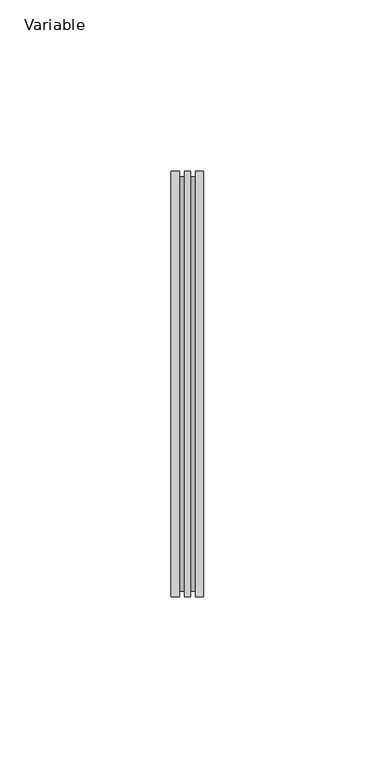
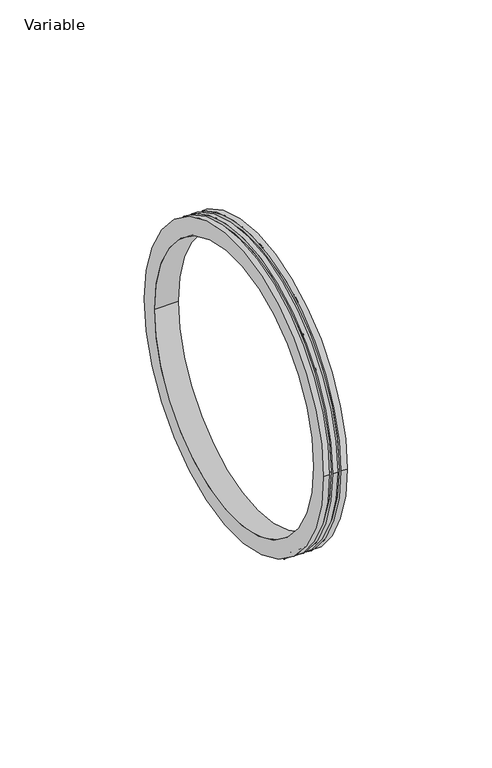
"""IFC4 building model written with IfcOpenShell, lengths in millimetres: pipe fitting geometry, AliaxisFR_Friaphon_EPDMGasket_FR : Variable."""

import ifcopenshell
import ifcopenshell.guid

model = None  # the IFC model being written
_history = None  # IfcOwnerHistory: only IFC2X3 demands one
_inside = {}  # id of a spatial element -> (the spatial element, [elements in it])
_under = {}  # id of a project, library or spatial element -> (it, [spatial elements below it])
_declared = {}  # id of a project -> (the project, [libraries it declares])
_typed = {}  # id of a type object -> (the type object, [elements of that type])
_made_of = {}  # id of a material, layer set ... -> (it, [elements and type objects made of it])


def new_model(schema):
    """Start an empty IFC model of exactly this schema.

    Asked for "IFC4X3", IfcOpenShell would pick the latest addendum, in which some entities
    have other attributes; the version numbers below select the first issue.
    IFC2X3 requires an IfcOwnerHistory on every rooted entity: one is made here for all.
    """
    global model, _history
    if schema == "IFC4X3":
        model = ifcopenshell.file(schema_version=(4, 3, 0, 0))
    else:
        model = ifcopenshell.file(schema=schema)
    _inside.clear()
    _under.clear()
    _declared.clear()
    _typed.clear()
    _made_of.clear()
    _history = None
    if model.schema == "IFC2X3":
        org = make("IfcOrganization", Name="unknown")
        user = make(
            "IfcPersonAndOrganization",
            ThePerson=make("IfcPerson", FamilyName="unknown"),
            TheOrganization=org,
        )
        app = make(
            "IfcApplication",
            ApplicationDeveloper=org,
            Version="unknown",
            ApplicationFullName="unknown",
            ApplicationIdentifier="unknown",
        )
        _history = make(
            "IfcOwnerHistory",
            OwningUser=user,
            OwningApplication=app,
            ChangeAction="ADDED",
            CreationDate=0,
        )
    return model


def make(cls, **values):
    """One entity of the class cls with the attributes given. An attribute that is None is left unset."""
    return model.create_entity(
        cls, **{name: value for name, value in values.items() if value is not None}
    )


def rooted(cls, **values):
    """An entity with a GlobalId (a new one), such as an element, a storey or a relation."""
    return make(cls, GlobalId=ifcopenshell.guid.new(), OwnerHistory=_history, **values)


def si_unit(unit_type, name, prefix=None):
    """IfcSIUnit, for example si_unit("LENGTHUNIT", "METRE", prefix="MILLI")."""
    return make("IfcSIUnit", UnitType=unit_type, Prefix=prefix, Name=name)


def assignment(units):
    """IfcUnitAssignment: the units of a project."""
    return None if units is None else make("IfcUnitAssignment", Units=units)


def point(xyz):
    """IfcCartesianPoint."""
    return None if xyz is None else make("IfcCartesianPoint", Coordinates=xyz)


def direction(xyz):
    """IfcDirection."""
    return None if xyz is None else make("IfcDirection", DirectionRatios=xyz)


def frame(location, z_axis=None, x_axis=None):
    """IfcAxis2Placement3D, a coordinate frame: its origin and axes. An axis left out is left unset."""
    return make(
        "IfcAxis2Placement3D",
        Location=point(location),
        Axis=direction(z_axis),
        RefDirection=direction(x_axis),
    )


def origin():
    """The frame at (0, 0, 0) with its axes left unset."""
    return frame((0.0, 0.0, 0.0))


def place(relative_to, where):
    """IfcLocalPlacement: puts the frame where relative to a parent placement (None: the world)."""
    return make(
        "IfcLocalPlacement", PlacementRelTo=relative_to, RelativePlacement=where
    )


def context(
    kind, dimensions, precision=None, world=None, true_north=None, identifier=None
):
    """IfcGeometricRepresentationContext, for example the 3D "Model" context."""
    return make(
        "IfcGeometricRepresentationContext",
        ContextIdentifier=identifier,
        ContextType=kind,
        CoordinateSpaceDimension=dimensions,
        Precision=precision,
        WorldCoordinateSystem=world,
        TrueNorth=true_north,
    )


def project(units=None, contexts=None):
    """IfcProject with its units and contexts."""
    return rooted(
        "IfcProject",
        Name="project",
        RepresentationContexts=contexts,
        UnitsInContext=assignment(units),
    )


def spatial(cls, under=None, at=None, **own):
    """A site, building, storey or space (cls), placed at a placement, below another one or the project."""
    s = rooted(cls, ObjectPlacement=at, **own)
    if under is not None:
        _under.setdefault(under.id(), (under, []))[1].append(s)
    return s


def polyline(points):
    """IfcPolyline through the points."""
    return make("IfcPolyline", Points=[point(p) for p in points])


def circle_curve(where, radius):
    """IfcCircle in the frame where."""
    return make("IfcCircle", Position=where, Radius=radius)


def shape(context_of_items, identifier, shape_type, items):
    """IfcShapeRepresentation: the items that make up one representation, for example the "Body"."""
    return make(
        "IfcShapeRepresentation",
        ContextOfItems=context_of_items,
        RepresentationIdentifier=identifier,
        RepresentationType=shape_type,
        Items=items,
    )


def source(mapping_origin, context_of_items, identifier, shape_type, items):
    """IfcRepresentationMap: a shape defined once, which mapped items show again and again."""
    return make(
        "IfcRepresentationMap",
        MappingOrigin=mapping_origin,
        MappedRepresentation=shape(context_of_items, identifier, shape_type, items),
    )


def transform(
    local_origin,
    x_axis=None,
    y_axis=None,
    z_axis=None,
    scale=None,
    scale2=None,
    scale3=None,
    uniform=True,
):
    """IfcCartesianTransformationOperator3D, or its non-uniform kind. x_axis, y_axis, z_axis: its Axis1, 2, 3."""
    if uniform:
        return make(
            "IfcCartesianTransformationOperator3D",
            Axis1=direction(x_axis),
            Axis2=direction(y_axis),
            LocalOrigin=point(local_origin),
            Scale=scale,
            Axis3=direction(z_axis),
        )
    return make(
        "IfcCartesianTransformationOperator3DnonUniform",
        Axis1=direction(x_axis),
        Axis2=direction(y_axis),
        LocalOrigin=point(local_origin),
        Scale=scale,
        Axis3=direction(z_axis),
        Scale2=scale2,
        Scale3=scale3,
    )


def mapped(mapping_source, mapping_target):
    """IfcMappedItem: shows the shape of a source again, moved by a transform."""
    return make(
        "IfcMappedItem", MappingSource=mapping_source, MappingTarget=mapping_target
    )


def made_of(thing, what):
    """Note that an element or type object is made of a material, layer set ...; save() writes the relation."""
    if what is not None:
        _made_of.setdefault(what.id(), (what, []))[1].append(thing)
    return thing


def element(
    cls,
    number,
    at=None,
    inside=None,
    cuts=None,
    type_object=None,
    material=None,
    context=None,
    identifier="Body",
    shape_type=None,
    held_by="IfcProductDefinitionShape",
    body=None,
    shapes=None,
    **own,
):
    """One element of the class cls, such as IfcWall. Its Tag is "e" and its number.

    at: its placement. inside: the storey or other place that contains it. cuts: it is an
    opening in that element (IfcRelVoidsElement). A single representation is given by context,
    identifier, shape_type and body (its items); several are given by shapes. held_by: the class
    of the entity that holds the representations. save() writes the other relations.
    """
    e = rooted(cls, Tag="e%d" % number, ObjectPlacement=at, **own)
    if body is not None:
        shapes = [shape(context, identifier, shape_type, body)]
    if shapes is not None:
        e.Representation = make(held_by, Representations=shapes)
    if inside is not None:
        _inside.setdefault(inside.id(), (inside, []))[1].append(e)
    if cuts is not None:
        rooted(
            "IfcRelVoidsElement", RelatingBuildingElement=cuts, RelatedOpeningElement=e
        )
    if type_object is not None:
        _typed.setdefault(type_object.id(), (type_object, []))[1].append(e)
    return made_of(e, material)


def aggregate(whole, parts):
    """IfcRelAggregates: a whole, such as a stair, and the parts it consists of."""
    return rooted("IfcRelAggregates", RelatingObject=whole, RelatedObjects=parts)


def save(model, path):
    """Write the relations noted so far, then the file.

    IfcRelAggregates (storeys below a building ...), IfcRelContainedInSpatialStructure (elements
    in a storey), IfcRelDefinesByType, IfcRelAssociatesMaterial and IfcRelDeclares: one each for
    every whole, place, type object, material and project.
    """
    for whole, parts in _under.values():
        aggregate(whole, parts)
    for where, things in _inside.values():
        rooted(
            "IfcRelContainedInSpatialStructure",
            RelatedElements=things,
            RelatingStructure=where,
        )
    for kind, things in _typed.values():
        rooted("IfcRelDefinesByType", RelatedObjects=things, RelatingType=kind)
    for what, things in _made_of.values():
        rooted("IfcRelAssociatesMaterial", RelatedObjects=things, RelatingMaterial=what)
    for by, libraries in _declared.values():
        rooted("IfcRelDeclares", RelatingContext=by, RelatedDefinitions=libraries)
    model.write(path)


def plane_surface(at):
    """IfcPlane: the flat surface through the origin of the frame at, square to its z axis."""
    return make("IfcPlane", Position=at)


def cylinder_surface(at, radius):
    """IfcCylindricalSurface: all points at the distance radius from the z axis of the frame at."""
    return make("IfcCylindricalSurface", Position=at, Radius=radius)


def revolved_surface(curve, axis_point, axis_direction):
    """IfcSurfaceOfRevolution: the curve turned about the line through axis_point along axis_direction."""
    return make(
        "IfcSurfaceOfRevolution",
        SweptCurve=make("IfcArbitraryOpenProfileDef", ProfileType="CURVE", Curve=curve),
        AxisPosition=make("IfcAxis1Placement", Location=point(axis_point), Axis=direction(axis_direction)),
    )


def advanced_brep(points, edges, surfaces, faces):
    """IfcAdvancedBrep: a solid bounded by faces that lie on surfaces and meet in shared edges.

    An edge is (start, end): straight between two places in points (the first is 0);
    or (start, end, curve); or (start, end, curve, False) where it runs against its curve.
    A face is (place in surfaces, loops), or (place, loops, False) where it looks against
    its surface's normal. A loop lists edges by number (the first is 1), with a minus sign
    where the edge is run from its end to its start. The first loop is the outer one.
    """
    corners = [point(p) for p in points]
    vertices = [make("IfcVertexPoint", VertexGeometry=c) for c in corners]
    made = []
    for start, end, *more in edges:
        made.append(
            make(
                "IfcEdgeCurve",
                EdgeStart=vertices[start],
                EdgeEnd=vertices[end],
                EdgeGeometry=more[0] if more else make("IfcPolyline", Points=[corners[start], corners[end]]),
                SameSense=more[1] if len(more) > 1 else True,
            )
        )
    hull = []
    for where, loops, *sense in faces:
        bounds = []
        for j, loop in enumerate(loops):
            ring = [make("IfcOrientedEdge", EdgeElement=made[abs(k) - 1], Orientation=k > 0) for k in loop]
            bounds.append(
                make(
                    "IfcFaceOuterBound" if j == 0 else "IfcFaceBound",
                    Bound=make("IfcEdgeLoop", EdgeList=ring),
                    Orientation=True,
                )
            )
        hull.append(make("IfcAdvancedFace", Bounds=bounds, FaceSurface=surfaces[where], SameSense=sense[0] if sense else True))
    return make("IfcAdvancedBrep", Outer=make("IfcClosedShell", CfsFaces=hull))


def variable_ceea4be9(model_context):
    return source(origin(), model_context, "Body", "AdvancedBrep", [
        advanced_brep(
        [(4.75, -62.0, 0.0), (4.75, 62.0, 0.0), (4.75, -55.0, 0.0), (4.75, 55.0, 0.0), (-4.75, -62.0, 0.0), (-4.75, 62.0, 0.0), (-4.75, -55.0, 0.0), (-4.75, 55.0, 0.0), (2.3663702, -62.0, 0.0), (2.3663702, 62.0, 0.0), (-2.3663702, 62.0, 0.0), (-2.3663702, -62.0, 0.0), (-0.8836298, -62.0, 0.0), (-0.8836298, 62.0, 0.0), (0.8836298, 62.0, 0.0), (0.8836298, -62.0, 0.0), (-0.8836298, -60.5, 0.0), (-0.8836298, 60.5, 0.0), (-2.3663702, -60.5, 0.0), (-2.3663702, 60.5, 0.0), (2.3663702, -60.5, 0.0), (2.3663702, 60.5, 0.0), (0.8836298, -60.5, 0.0), (0.8836298, 60.5, 0.0)],
        [
            (0, 1, circle_curve(frame((4.75, 0.0, 0.0), z_axis=(1.0, 0.0, 0.0), x_axis=(0.0, 1.0, 0.0)), 62.0)),
            (1, 0, circle_curve(frame((4.75, 0.0, 0.0), z_axis=(1.0, 0.0, 0.0), x_axis=(0.0, 1.0, 0.0)), 62.0)),
            (2, 3, circle_curve(frame((4.75, 0.0, 0.0), z_axis=(-1.0, 0.0, 0.0), x_axis=(0.0, 1.0, 0.0)), 55.0)),
            (3, 2, circle_curve(frame((4.75, 0.0, 0.0), z_axis=(-1.0, 0.0, 0.0), x_axis=(0.0, 1.0, 0.0)), 55.0)),
            (4, 5, circle_curve(frame((-4.75, 0.0, 0.0), z_axis=(-1.0, 0.0, 0.0), x_axis=(0.0, 1.0, 0.0)), 62.0)),
            (5, 4, circle_curve(frame((-4.75, 0.0, 0.0), z_axis=(-1.0, 0.0, 0.0), x_axis=(0.0, 1.0, 0.0)), 62.0)),
            (6, 7, circle_curve(frame((-4.75, 0.0, 0.0), z_axis=(1.0, 0.0, 0.0), x_axis=(0.0, 1.0, 0.0)), 55.0)),
            (7, 6, circle_curve(frame((-4.75, 0.0, 0.0), z_axis=(1.0, 0.0, 0.0), x_axis=(0.0, 1.0, 0.0)), 55.0)),
            (0, 8),
            (8, 9, circle_curve(frame((2.3663702, 0.0, 0.0), z_axis=(1.0, 0.0, 0.0), x_axis=(0.0, 1.0, 0.0)), 62.0)),
            (9, 1),
            (5, 10),
            (10, 11, circle_curve(frame((-2.3663702, 0.0, 0.0), z_axis=(-1.0, 0.0, 0.0), x_axis=(0.0, 1.0, 0.0)), 62.0)),
            (11, 4),
            (12, 13, circle_curve(frame((-0.8836298, 0.0, 0.0), z_axis=(1.0, 0.0, 0.0), x_axis=(0.0, 1.0, 0.0)), 62.0)),
            (13, 14),
            (14, 15, circle_curve(frame((0.8836298, 0.0, 0.0), z_axis=(-1.0, 0.0, 0.0), x_axis=(0.0, 1.0, 0.0)), 62.0)),
            (15, 12),
            (9, 8, circle_curve(frame((2.3663702, 0.0, 0.0), z_axis=(1.0, 0.0, 0.0), x_axis=(0.0, 1.0, 0.0)), 62.0)),
            (11, 10, circle_curve(frame((-2.3663702, 0.0, 0.0), z_axis=(-1.0, 0.0, 0.0), x_axis=(0.0, 1.0, 0.0)), 62.0)),
            (13, 12, circle_curve(frame((-0.8836298, 0.0, 0.0), z_axis=(1.0, 0.0, 0.0), x_axis=(0.0, 1.0, 0.0)), 62.0)),
            (15, 14, circle_curve(frame((0.8836298, 0.0, 0.0), z_axis=(-1.0, 0.0, 0.0), x_axis=(0.0, 1.0, 0.0)), 62.0)),
            (2, 6),
            (7, 3),
            (16, 17, circle_curve(frame((-0.8836298, 0.0, 0.0), z_axis=(1.0, 0.0, 0.0), x_axis=(0.0, 1.0, 0.0)), 60.5)),
            (17, 16, circle_curve(frame((-0.8836298, 0.0, 0.0), z_axis=(1.0, 0.0, 0.0), x_axis=(0.0, 1.0, 0.0)), 60.5)),
            (18, 19, circle_curve(frame((-2.3663702, 0.0, 0.0), z_axis=(-1.0, 0.0, 0.0), x_axis=(0.0, 1.0, 0.0)), 60.5)),
            (19, 18, circle_curve(frame((-2.3663702, 0.0, 0.0), z_axis=(-1.0, 0.0, 0.0), x_axis=(0.0, 1.0, 0.0)), 60.5)),
            (17, 19),
            (18, 16),
            (20, 21, circle_curve(frame((2.3663702, 0.0, 0.0), z_axis=(1.0, 0.0, 0.0), x_axis=(0.0, 1.0, 0.0)), 60.5)),
            (21, 20, circle_curve(frame((2.3663702, 0.0, 0.0), z_axis=(1.0, 0.0, 0.0), x_axis=(0.0, 1.0, 0.0)), 60.5)),
            (22, 23, circle_curve(frame((0.8836298, 0.0, 0.0), z_axis=(-1.0, 0.0, 0.0), x_axis=(0.0, 1.0, 0.0)), 60.5)),
            (23, 22, circle_curve(frame((0.8836298, 0.0, 0.0), z_axis=(-1.0, 0.0, 0.0), x_axis=(0.0, 1.0, 0.0)), 60.5)),
            (21, 23),
            (22, 20),
        ],
        [
            plane_surface(frame((4.75, 62.0, 0.0), z_axis=(1.0, 0.0, 0.0), x_axis=(0.0, 0.0, 1.0))),
            plane_surface(frame((-4.75, 62.0, 0.0), z_axis=(-1.0, 0.0, 0.0), x_axis=(0.0, 0.0, -1.0))),
            cylinder_surface(frame((-4.75, 0.0, 0.0), z_axis=(1.0, 0.0, 0.0), x_axis=(0.0, 1.0, 0.0)), 62.0),
            revolved_surface(polyline([(-4.75, 55.0, 0.0), (4.75, 55.0, 0.0)]), (0.0, 0.0, 0.0), (-1.0, 0.0, 0.0)),
            plane_surface(frame((-0.8836298, 62.0, 0.0), z_axis=(-1.0, 0.0, 0.0), x_axis=(0.0, 0.0, 1.0))),
            plane_surface(frame((-2.3663702, 62.0, 0.0), z_axis=(1.0, 0.0, 0.0), x_axis=(0.0, 0.0, -1.0))),
            cylinder_surface(frame((0.0, 0.0, 0.0), z_axis=(-1.0, 0.0, 0.0), x_axis=(0.0, 1.0, 0.0)), 60.5),
            plane_surface(frame((2.3663702, 62.0, 0.0), z_axis=(-1.0, 0.0, 0.0), x_axis=(0.0, 0.0, 1.0))),
            plane_surface(frame((0.8836298, 62.0, 0.0), z_axis=(1.0, 0.0, 0.0), x_axis=(0.0, 0.0, -1.0))),
        ],
        [
            (0, [[1, 2], [3, 4]]),
            (1, [[5, 6], [7, 8]]),
            (2, [[-1, 9, 10, 11]]),
            (2, [[-6, 12, 13, 14]]),
            (2, [[15, 16, 17, 18]]),
            (2, [[-2, -11, 19, -9]]),
            (2, [[-5, -14, 20, -12]]),
            (2, [[21, -18, 22, -16]]),
            (3, [[-3, 23, -8, 24]]),
            (3, [[-4, -24, -7, -23]]),
            (4, [[-15, -21], [25, 26]]),
            (5, [[-13, -20], [27, 28]]),
            (6, [[-26, 29, -27, 30]]),
            (6, [[-25, -30, -28, -29]]),
            (7, [[-10, -19], [31, 32]]),
            (8, [[-17, -22], [33, 34]]),
            (6, [[-32, 35, -33, 36]]),
            (6, [[-31, -36, -34, -35]]),
        ],
    ),
    ])


if __name__ == "__main__":
    model = new_model("IFC4")
    model_context = context("Model", 3, world=origin())
    ifc_project = project(units=[si_unit("LENGTHUNIT", "METRE", prefix="MILLI")], contexts=[model_context])
    site = spatial("IfcSite", under=ifc_project)
    building = spatial("IfcBuilding", under=site)
    placement = place(None, origin())
    variable_shape = variable_ceea4be9(model_context)
    element("IfcPipeFitting", 1, ObjectType="AliaxisFR_Friaphon_EPDMGasket_FR : Variable", at=placement, inside=building, context=model_context, shape_type="MappedRepresentation", body=[
        mapped(variable_shape, transform((0.0, 0.0, 0.0), x_axis=(1.0, 0.0, 0.0), y_axis=(0.0, 1.0, 0.0), z_axis=(0.0, 0.0, 1.0))),
    ])
    save(model, "model.ifc")
